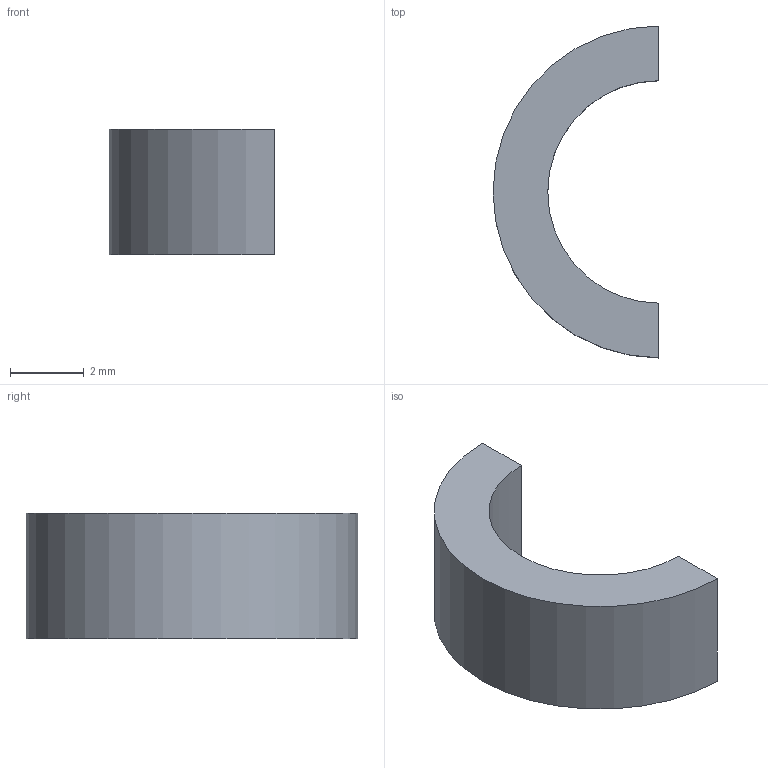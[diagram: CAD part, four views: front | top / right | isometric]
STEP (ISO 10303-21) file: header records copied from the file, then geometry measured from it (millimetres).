
FILE_DESCRIPTION(('Open CASCADE Model'),'2;1');
FILE_NAME('Open CASCADE Shape Model','2026-09-24T17:43:00',('Author'),( 'Open CASCADE'),'Open CASCADE STEP processor 7.8','Open CASCADE 7.8' ,'Unknown');
FILE_SCHEMA(('AUTOMOTIVE_DESIGN { 1 0 10303 214 1 1 1 1 }'));
Length unit declared in the file: millimetre
Products named in the file (1): Open CASCADE STEP translator 7.8 3
Bounding box: 4.49 x 8.98 x 3.4 mm (x, y, z)
Volume: 59.3 mm3; surface area: 125 mm2
Topology: 1 solids, 1 shells, 6 faces, 12 edges, 8 vertices
Faces by surface type: plane 4, cylinder 2
Entity records: 322 total; most frequent: CARTESIAN_POINT 55, DIRECTION 50, ORIENTED_EDGE 24, PCURVE 24, DEFINITIONAL_REPRESENTATION 24, LINE 24, VECTOR 24, EDGE_CURVE 12
